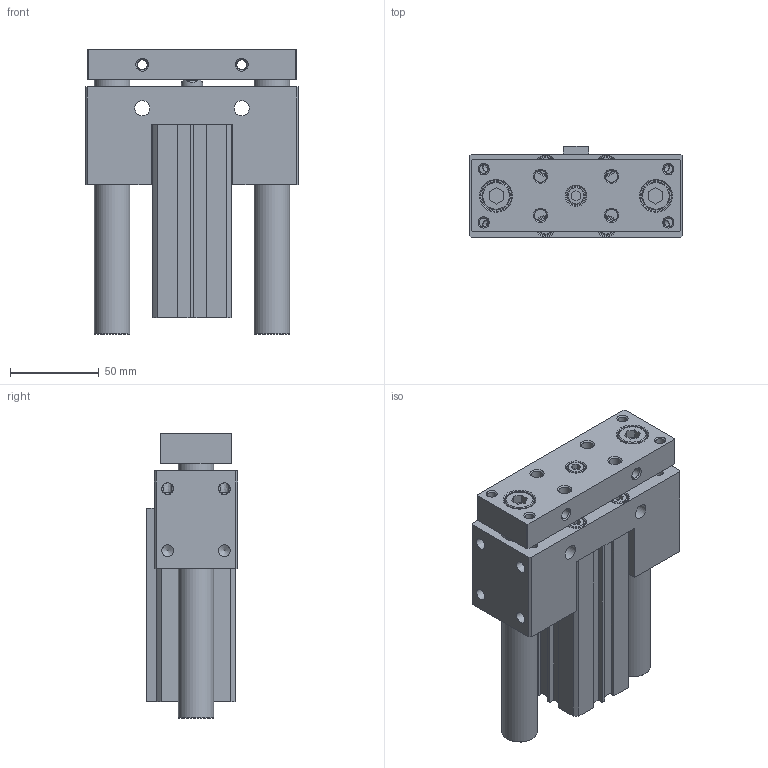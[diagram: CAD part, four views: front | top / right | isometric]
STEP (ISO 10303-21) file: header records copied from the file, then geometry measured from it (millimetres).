
FILE_DESCRIPTION((''),'2;1');
FILE_NAME('I:\3D電子目錄\氣缸\JCB\JCB\JCB32\JCB32x85.stp','2007-08-21T20:26:55',('Administrator'),(''),'Autodesk Inventor 11','Autodesk Inventor 11','');
FILE_SCHEMA(('AUTOMOTIVE_DESIGN { 1 0 10303 214 1 1 1 1 }'));
Length unit declared in the file: millimetre
Products named in the file (1): JCB32
Bounding box: 120 x 51.5 x 160.4 mm (x, y, z)
Volume: 528245.4 mm3; surface area: 122101.7 mm2
Topology: 3 solids, 3 shells, 322 faces, 757 edges, 491 vertices
Faces by surface type: plane 174, cylinder 54, bspline 45, cone 41, torus 8
Full cylindrical faces by diameter (mm): 2.2 x2, 5.1 x4, 6 x2, 6.647 x4, 8 x8, 10 x5, 11 x5, 12 x1, 13 x1, 16 x2, 17.5 x2, 20 x2, 22 x1, 23 x3, 34 x4, 36 x2
Entity records: 9312 total; most frequent: CARTESIAN_POINT 2546, DIRECTION 1348, ORIENTED_EDGE 1196, EDGE_CURVE 598, EDGE_LOOP 538, AXIS2_PLACEMENT_3D 496, VERTEX_POINT 460, VECTOR 356
